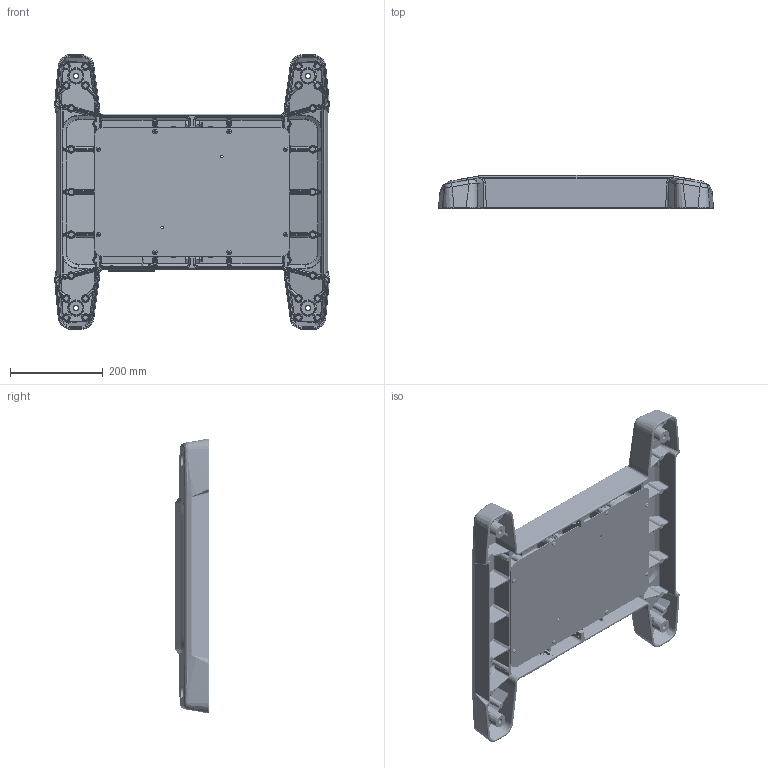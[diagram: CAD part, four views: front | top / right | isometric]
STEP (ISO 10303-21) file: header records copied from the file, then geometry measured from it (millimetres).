
FILE_DESCRIPTION((''),'2;1');
FILE_NAME('1016562200_SW0001','2023-01-05T07:50:05',('Falk.Schoember'),(''),'CREO PARAMETRIC BY PTC INC, 2022124','CREO PARAMETRIC BY PTC INC, 2022124','');
FILE_SCHEMA(('AUTOMOTIVE_DESIGN { 1 0 10303 214 1 1 1 1 }'));
Products named in the file (1): 1016562200_SW0001
Bounding box: 591.48 x 72.15 x 591.42 mm (x, y, z)
Volume: 3715658.5 mm3; surface area: 1282034.6 mm2
Topology: 5 solids, 5 shells, 5195 faces, 13342 edges, 7834 vertices
Faces by surface type: bspline 1967, cylinder 1442, plane 938, cone 405, torus 311, sphere 128, extrusion 4
Entity records: 374295 total; most frequent: CARTESIAN_POINT 187192, ORIENTED_EDGE 26612, PRESENTATION_STYLE_ASSIGNMENT 18339, DIRECTION 16615, STYLED_ITEM 13319, CURVE_STYLE 13314, EDGE_CURVE 13306, VERTEX_POINT 7834
